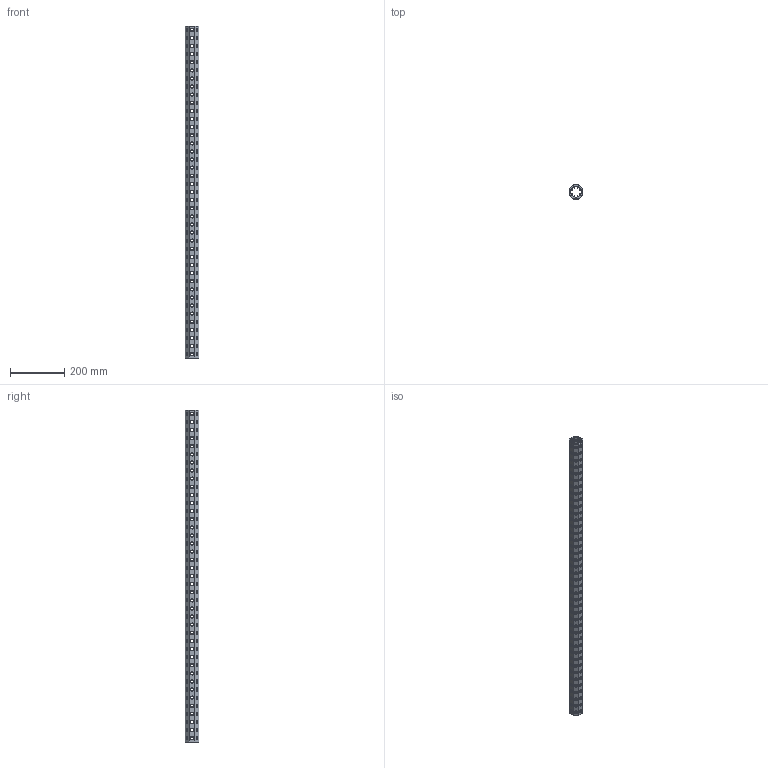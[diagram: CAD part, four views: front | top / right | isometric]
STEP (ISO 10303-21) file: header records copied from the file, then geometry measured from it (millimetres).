
FILE_DESCRIPTION(('CATIA V5 STEP Exchange'),'2;1');
FILE_NAME('U:\Room\唐宝山\EGT002\46-01-010270-01-EGT002-1228.stp','2021-08-24T01:19:02+00:00',('none'),('none'),'CATIA Version 5 Release 21 GA (IN-10)','CATIA V5 STEP AP203','none');
FILE_SCHEMA(('CONFIG_CONTROL_DESIGN'));
Products named in the file (1): 46-01-010270-01-EGT002-1228
Bounding box: 50 x 50 x 1228 mm (x, y, z)
Volume: 874840.6 mm3; surface area: 422467.4 mm2
Topology: 1 solids, 1 shells, 1724 faces, 4756 edges, 2952 vertices
Faces by surface type: cone 984, cylinder 714, plane 26
Entity records: 74551 total; most frequent: CARTESIAN_POINT 33228, ORIENTED_EDGE 9512, DIRECTION 6487, EDGE_CURVE 4756, VERTEX_POINT 2952, AXIS2_PLACEMENT_3D 2912, EDGE_LOOP 2300, VECTOR 1852
